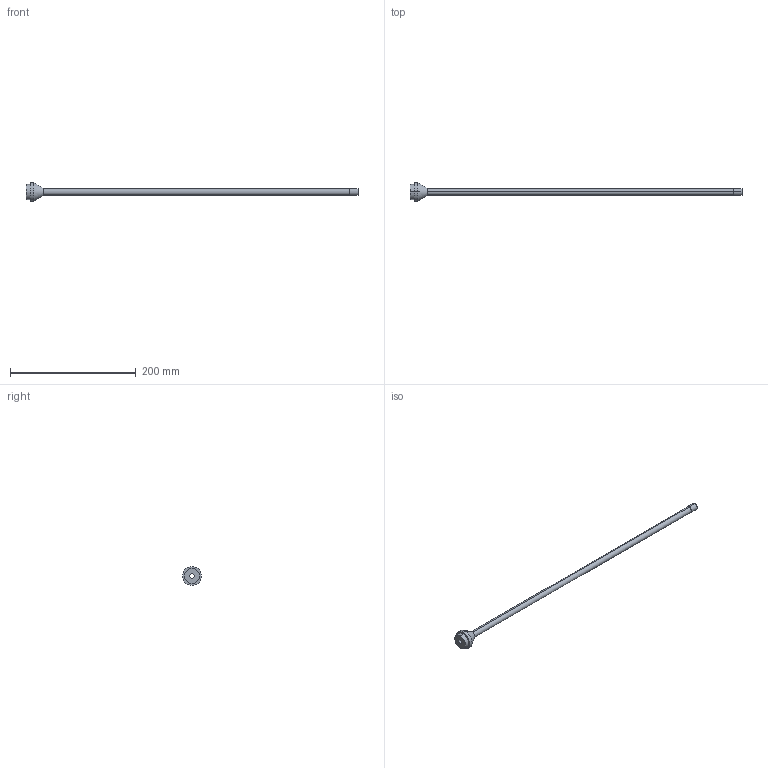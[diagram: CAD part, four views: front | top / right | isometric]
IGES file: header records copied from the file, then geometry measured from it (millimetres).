
Start section: SolidWorks IGES FILE using analytic representation for surfaces
Global section: file name: \\intra-srv04\開発データ\CAD_Data\CAD委員会\3D電子ｶﾀﾛｸﾞ\製品カタログ（新）\0_IGES\ER-AD50.IGS,41HSolidWorks 2004; native system: by SolidWorks Corporation; preprocessor: Version 5.3; author: mf1158; date: 050905.110824; units: millimetre
Bounding box: 527 x 30 x 30 mm (x, y, z)
Volume: 31417.5 mm3; surface area: 30267.2 mm2
Topology: 1 solids, 1 shells, 17 faces, 34 edges, 22 vertices
Faces by surface type: revolution 12, plane 5
